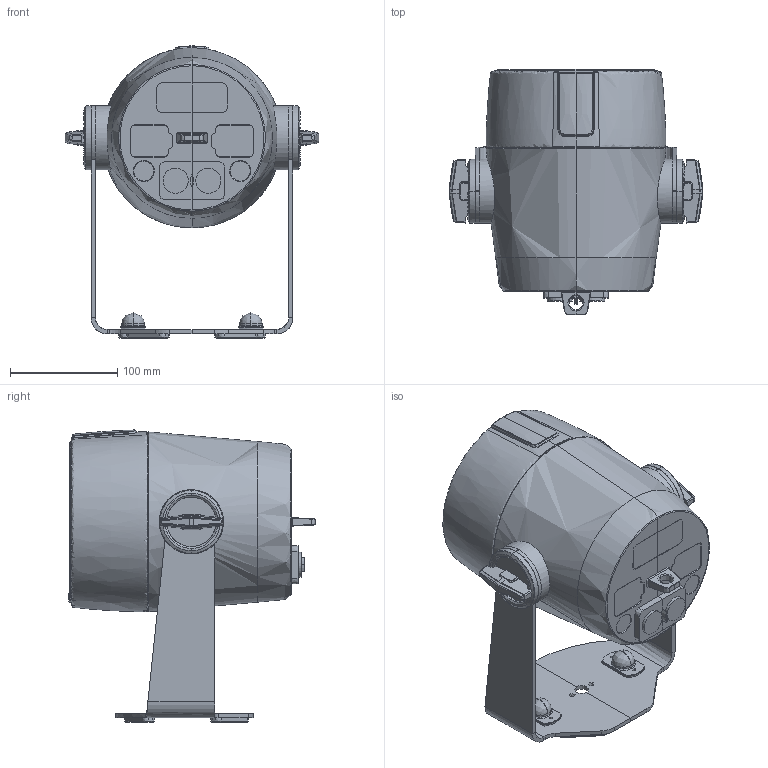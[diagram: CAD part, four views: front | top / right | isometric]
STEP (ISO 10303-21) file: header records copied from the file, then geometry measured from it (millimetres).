
FILE_DESCRIPTION(/* description */ (''),/* implementation_level */ '2;1');
FILE_NAME(/* name */ '220621_ROXX_SHOW mini_3D_Step',/* time_stamp */ '2022-06-21T15:50:58+02:00',/* author */ (''),/* organization */ (''),/* preprocessor_version */ 'ST-DEVELOPER v16.5',/* originating_system */ '',/* authorisation */ '');
FILE_SCHEMA (('AUTOMOTIVE_DESIGN'));
Products named in the file (1): Document
Bounding box: 237.19 x 229.8 x 272.88 mm (x, y, z)
Volume: 4350657.8 mm3; surface area: 255573.1 mm2
Topology: 2 solids, 2 shells, 940 faces, 2223 edges, 1301 vertices
Faces by surface type: bspline 940
Entity records: 80125 total; most frequent: CARTESIAN_POINT 52688, B_SPLINE_CURVE_WITH_KNOTS 5252, ORIENTED_EDGE 4430, PCURVE 4430, DEFINITIONAL_REPRESENTATION 4430, SURFACE_CURVE 2215, EDGE_CURVE 2215, VERTEX_POINT 1301
